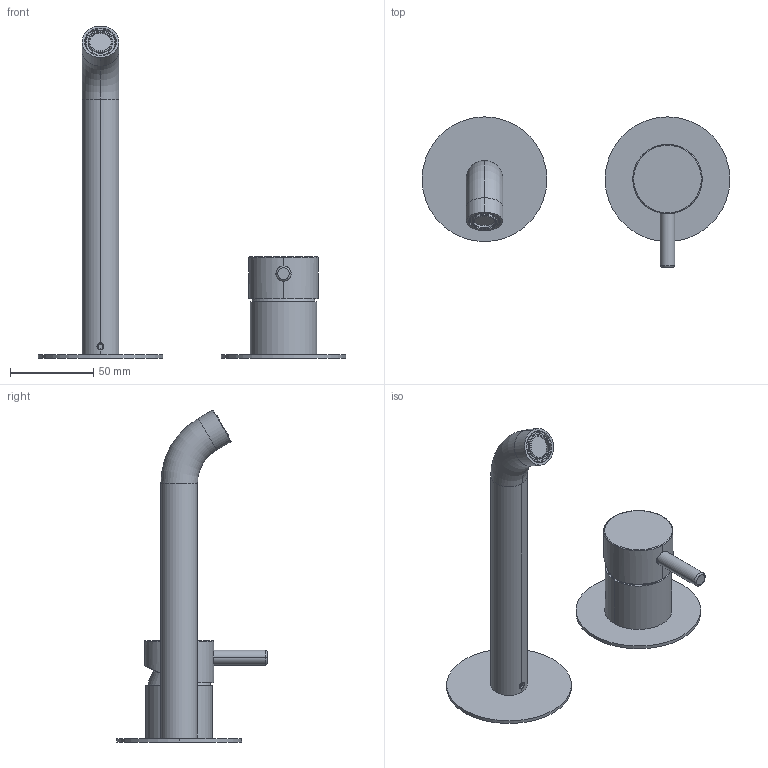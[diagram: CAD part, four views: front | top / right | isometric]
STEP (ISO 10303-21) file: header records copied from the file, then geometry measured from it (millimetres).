
FILE_DESCRIPTION((''),'2;1');
FILE_NAME('12539_SW0002','2024-03-19T14:11:53',('carloff'),(''),'CREO PARAMETRIC BY PTC INC, 2022014','CREO PARAMETRIC BY PTC INC, 2022014','');
FILE_SCHEMA(('CONFIG_CONTROL_DESIGN'));
Products named in the file (1): 12539_SW0002
Bounding box: 185 x 90.4 x 199.53 mm (x, y, z)
Volume: 102426.6 mm3; surface area: 91707 mm2
Topology: 5 solids, 5 shells, 848 faces, 2433 edges, 1604 vertices
Faces by surface type: plane 322, cylinder 321, torus 82, cone 76, bspline 41, sphere 6
Entity records: 53492 total; most frequent: CARTESIAN_POINT 31409, ORIENTED_EDGE 4858, DIRECTION 4420, EDGE_CURVE 2429, AXIS2_PLACEMENT_3D 1655, VERTEX_POINT 1604, VECTOR 1110, LINE 1110
